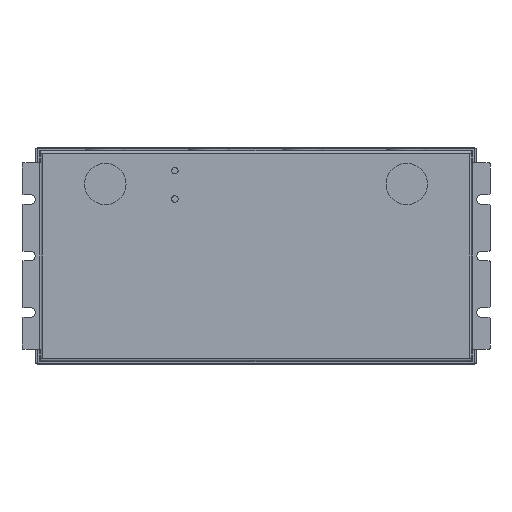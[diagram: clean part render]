
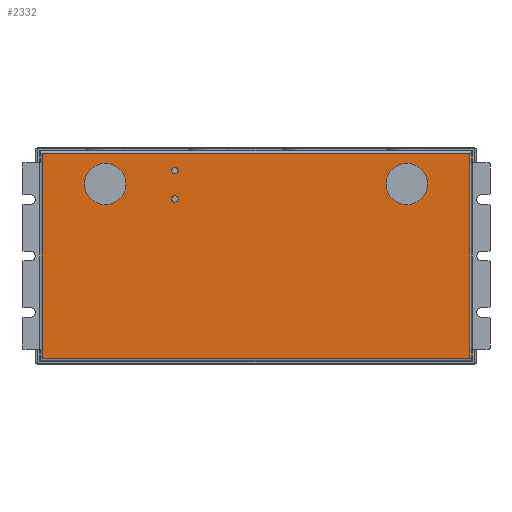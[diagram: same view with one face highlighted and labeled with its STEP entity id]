
A CAD part, front view. The second image highlights one B-rep face of the part: STEP entity #2332.
In plain terms, the highlighted planar face has unit normal (0, -1, 0).
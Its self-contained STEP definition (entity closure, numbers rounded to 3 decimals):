
#599=DIRECTION('',(0.,0.,-1.));
#600=VECTOR('',#599,108.8);
#601=CARTESIAN_POINT('',(113.4,0.,54.4));
#602=LINE('',#601,#600);
#628=DIRECTION('',(-1.,0.,0.));
#629=VECTOR('',#628,226.8);
#630=CARTESIAN_POINT('',(113.4,0.,-54.4));
#631=LINE('',#630,#629);
#672=CARTESIAN_POINT('',(-43.067,0.,45.275));
#673=DIRECTION('',(0.,1.,0.));
#674=DIRECTION('',(1.,0.,0.));
#675=AXIS2_PLACEMENT_3D('',#672,#673,#674);
#680=CARTESIAN_POINT('',(-43.067,0.,45.275));
#681=DIRECTION('',(0.,1.,0.));
#682=DIRECTION('',(-1.,0.,0.));
#683=AXIS2_PLACEMENT_3D('',#680,#681,#682);
#688=CARTESIAN_POINT('',(-43.067,0.,30.275));
#689=DIRECTION('',(0.,1.,0.));
#690=DIRECTION('',(1.,0.,0.));
#691=AXIS2_PLACEMENT_3D('',#688,#689,#690);
#696=CARTESIAN_POINT('',(-43.067,0.,30.275));
#697=DIRECTION('',(0.,1.,0.));
#698=DIRECTION('',(-1.,0.,0.));
#699=AXIS2_PLACEMENT_3D('',#696,#697,#698);
#704=CARTESIAN_POINT('',(80.,0.,38.2));
#705=DIRECTION('',(0.,-1.,0.));
#706=DIRECTION('',(-1.,0.,0.));
#707=AXIS2_PLACEMENT_3D('',#704,#705,#706);
#712=CARTESIAN_POINT('',(80.,0.,38.2));
#713=DIRECTION('',(0.,-1.,0.));
#714=DIRECTION('',(1.,0.,0.));
#715=AXIS2_PLACEMENT_3D('',#712,#713,#714);
#720=CARTESIAN_POINT('',(-80.,0.,38.2));
#721=DIRECTION('',(0.,-1.,0.));
#722=DIRECTION('',(-1.,0.,0.));
#723=AXIS2_PLACEMENT_3D('',#720,#721,#722);
#728=CARTESIAN_POINT('',(-80.,0.,38.2));
#729=DIRECTION('',(0.,-1.,0.));
#730=DIRECTION('',(1.,0.,0.));
#731=AXIS2_PLACEMENT_3D('',#728,#729,#730);
#736=DIRECTION('',(0.,0.,1.));
#737=VECTOR('',#736,108.8);
#738=CARTESIAN_POINT('',(-113.4,0.,-54.4));
#739=LINE('',#738,#737);
#765=DIRECTION('',(1.,0.,0.));
#766=VECTOR('',#765,226.8);
#767=CARTESIAN_POINT('',(-113.4,0.,54.4));
#768=LINE('',#767,#766);
#1632=CARTESIAN_POINT('',(113.4,0.,54.4));
#1634=VERTEX_POINT('',#1632);
#1636=CARTESIAN_POINT('',(113.4,0.,-54.4));
#1638=VERTEX_POINT('',#1636);
#1660=CARTESIAN_POINT('',(-113.4,0.,-54.4));
#1661=VERTEX_POINT('',#1660);
#1664=CARTESIAN_POINT('',(-113.4,0.,54.4));
#1665=VERTEX_POINT('',#1664);
#1728=CARTESIAN_POINT('',(-41.317,0.,45.275));
#1729=CARTESIAN_POINT('',(-44.817,0.,45.275));
#1730=VERTEX_POINT('',#1728);
#1731=VERTEX_POINT('',#1729);
#1732=CARTESIAN_POINT('',(-41.317,0.,30.275));
#1733=CARTESIAN_POINT('',(-44.817,0.,30.275));
#1734=VERTEX_POINT('',#1732);
#1735=VERTEX_POINT('',#1733);
#1760=CARTESIAN_POINT('',(69.,0.,38.2));
#1761=CARTESIAN_POINT('',(91.,0.,38.2));
#1762=VERTEX_POINT('',#1760);
#1763=VERTEX_POINT('',#1761);
#1764=CARTESIAN_POINT('',(-91.,0.,38.2));
#1765=CARTESIAN_POINT('',(-69.,0.,38.2));
#1766=VERTEX_POINT('',#1764);
#1767=VERTEX_POINT('',#1765);
#2295=CARTESIAN_POINT('',(0.,0.,0.));
#2296=DIRECTION('',(0.,1.,0.));
#2297=DIRECTION('',(1.,0.,0.));
#2298=AXIS2_PLACEMENT_3D('',#2295,#2296,#2297);
#2299=PLANE('',#2298);
#2301=ORIENTED_EDGE('',*,*,#2300,.T.);
#2303=ORIENTED_EDGE('',*,*,#2302,.T.);
#2304=ORIENTED_EDGE('',*,*,#2214,.T.);
#2305=ORIENTED_EDGE('',*,*,#2274,.T.);
#2306=EDGE_LOOP('',(#2301,#2303,#2304,#2305));
#2307=FACE_OUTER_BOUND('',#2306,.F.);
#2309=ORIENTED_EDGE('',*,*,#2308,.F.);
#2311=ORIENTED_EDGE('',*,*,#2310,.F.);
#2312=EDGE_LOOP('',(#2309,#2311));
#2313=FACE_BOUND('',#2312,.F.);
#2315=ORIENTED_EDGE('',*,*,#2314,.F.);
#2317=ORIENTED_EDGE('',*,*,#2316,.F.);
#2318=EDGE_LOOP('',(#2315,#2317));
#2319=FACE_BOUND('',#2318,.F.);
#2321=ORIENTED_EDGE('',*,*,#2320,.T.);
#2323=ORIENTED_EDGE('',*,*,#2322,.T.);
#2324=EDGE_LOOP('',(#2321,#2323));
#2325=FACE_BOUND('',#2324,.F.);
#2327=ORIENTED_EDGE('',*,*,#2326,.T.);
#2329=ORIENTED_EDGE('',*,*,#2328,.T.);
#2330=EDGE_LOOP('',(#2327,#2329));
#2331=FACE_BOUND('',#2330,.F.);
#2332=ADVANCED_FACE('',(#2307,#2313,#2319,#2325,#2331),#2299,.F.);
#676=CIRCLE('',#675,1.75);
#684=CIRCLE('',#683,1.75);
#692=CIRCLE('',#691,1.75);
#700=CIRCLE('',#699,1.75);
#708=CIRCLE('',#707,11.);
#716=CIRCLE('',#715,11.);
#724=CIRCLE('',#723,11.);
#732=CIRCLE('',#731,11.);
#2214=EDGE_CURVE('',#1634,#1638,#602,.T.);
#2274=EDGE_CURVE('',#1638,#1661,#631,.T.);
#2300=EDGE_CURVE('',#1661,#1665,#739,.T.);
#2302=EDGE_CURVE('',#1665,#1634,#768,.T.);
#2308=EDGE_CURVE('',#1730,#1731,#676,.T.);
#2310=EDGE_CURVE('',#1731,#1730,#684,.T.);
#2314=EDGE_CURVE('',#1734,#1735,#692,.T.);
#2316=EDGE_CURVE('',#1735,#1734,#700,.T.);
#2320=EDGE_CURVE('',#1762,#1763,#708,.T.);
#2322=EDGE_CURVE('',#1763,#1762,#716,.T.);
#2326=EDGE_CURVE('',#1766,#1767,#724,.T.);
#2328=EDGE_CURVE('',#1767,#1766,#732,.T.);
